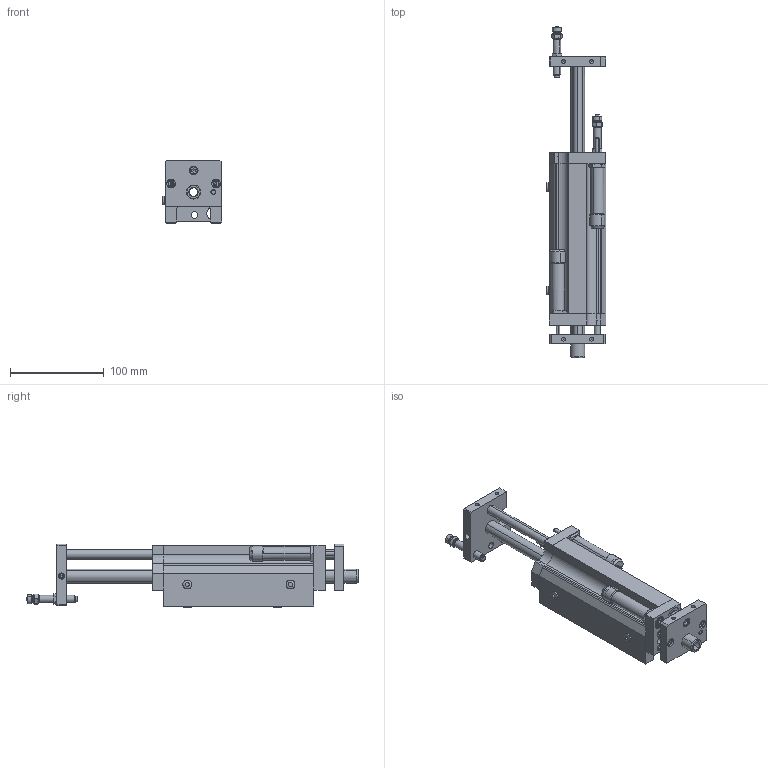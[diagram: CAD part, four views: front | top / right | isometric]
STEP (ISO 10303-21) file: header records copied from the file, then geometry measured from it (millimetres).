
FILE_DESCRIPTION((''),'2;1');
FILE_NAME('V:\CAD\Inventor-Stp\Linearelemente\Kugelbüchsenführungen\VE 25\1000035\1000035.stp','2006-03-14T09:32:31',('is'),(''),'Autodesk Inventor 8','Autodesk Inventor 8','');
FILE_SCHEMA(('AUTOMOTIVE_DESIGN { 1 0 10303 214 1 1 1 1 }'));
Length unit declared in the file: millimetre
Products named in the file (3): 1000035; 1000035-a; 1000035-b
Assembly tree (2 placements, depth 2):
  1000035
    1000035-a
    1000035-b
Bounding box: 63.82 x 354 x 67.9 mm (x, y, z)
Volume: 474051.5 mm3; surface area: 169237.4 mm2
Topology: 2 solids, 55 shells, 1266 faces, 3037 edges, 1923 vertices
Faces by surface type: bspline 358, plane 358, cylinder 282, cone 222, torus 44, sphere 2
Entity records: 42882 total; most frequent: CARTESIAN_POINT 14175, DIRECTION 6062, ORIENTED_EDGE 5930, EDGE_CURVE 2965, AXIS2_PLACEMENT_3D 2444, VERTEX_POINT 1923, CIRCLE 1531, EDGE_LOOP 1510
